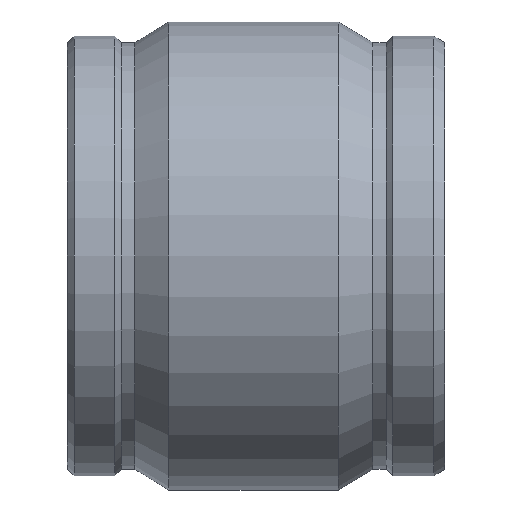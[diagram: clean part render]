
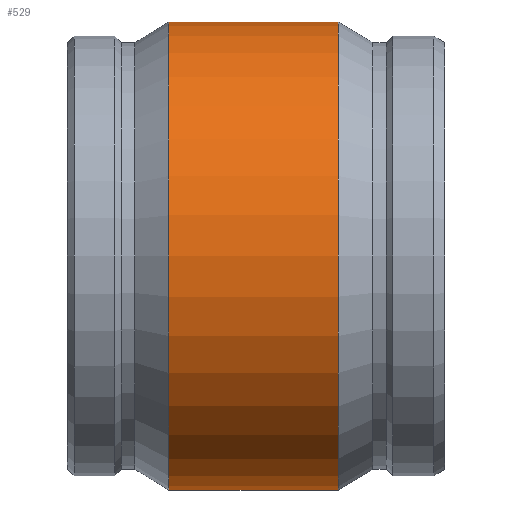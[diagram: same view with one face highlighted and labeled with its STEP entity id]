
A CAD part, front view. The second image highlights one B-rep face of the part: STEP entity #529.
In plain terms, the highlighted cylindrical face has radius 170.18 mm (diameter 340.36 mm), a full revolution.
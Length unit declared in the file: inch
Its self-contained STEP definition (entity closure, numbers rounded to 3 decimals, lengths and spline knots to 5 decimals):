
#50=LINE('',#992,#72);
#72=VECTOR('',#748,6.7);
#89=CYLINDRICAL_SURFACE('',#605,6.7);
#113=FACE_OUTER_BOUND('',#151,.T.);
#151=EDGE_LOOP('',(#421,#422,#423,#424,#425,#426));
#191=CIRCLE('',#603,6.7);
#192=CIRCLE('',#604,6.7);
#193=CIRCLE('',#606,6.7);
#194=CIRCLE('',#607,6.7);
#245=VERTEX_POINT('',#982);
#246=VERTEX_POINT('',#983);
#247=VERTEX_POINT('',#988);
#248=VERTEX_POINT('',#989);
#309=EDGE_CURVE('',#245,#246,#191,.T.);
#310=EDGE_CURVE('',#246,#245,#192,.T.);
#312=EDGE_CURVE('',#247,#248,#193,.T.);
#313=EDGE_CURVE('',#248,#247,#194,.T.);
#314=EDGE_CURVE('',#248,#246,#50,.T.);
#421=ORIENTED_EDGE('',*,*,#312,.F.);
#422=ORIENTED_EDGE('',*,*,#313,.F.);
#423=ORIENTED_EDGE('',*,*,#314,.T.);
#424=ORIENTED_EDGE('',*,*,#310,.T.);
#425=ORIENTED_EDGE('',*,*,#309,.T.);
#426=ORIENTED_EDGE('',*,*,#314,.F.);
#529=ADVANCED_FACE('',(#113),#89,.T.);
#603=AXIS2_PLACEMENT_3D('',#984,#737,#738);
#604=AXIS2_PLACEMENT_3D('',#985,#739,#740);
#605=AXIS2_PLACEMENT_3D('',#987,#742,#743);
#606=AXIS2_PLACEMENT_3D('',#990,#744,#745);
#607=AXIS2_PLACEMENT_3D('',#991,#746,#747);
#737=DIRECTION('center_axis',(1.,0.,0.));
#738=DIRECTION('ref_axis',(0.,0.,-1.));
#739=DIRECTION('center_axis',(1.,0.,0.));
#740=DIRECTION('ref_axis',(0.,0.,-1.));
#742=DIRECTION('center_axis',(1.,0.,0.));
#743=DIRECTION('ref_axis',(0.,1.,0.));
#744=DIRECTION('center_axis',(1.,0.,0.));
#745=DIRECTION('ref_axis',(0.,0.,-1.));
#746=DIRECTION('center_axis',(1.,0.,0.));
#747=DIRECTION('ref_axis',(0.,0.,-1.));
#748=DIRECTION('',(-1.,0.,0.));
#982=CARTESIAN_POINT('',(-2.5,6.7,0.));
#983=CARTESIAN_POINT('',(-2.5,-6.7,0.));
#984=CARTESIAN_POINT('Origin',(-2.5,0.,0.));
#985=CARTESIAN_POINT('Origin',(-2.5,0.,0.));
#987=CARTESIAN_POINT('Origin',(-0.07,0.,0.));
#988=CARTESIAN_POINT('',(2.36,6.7,0.));
#989=CARTESIAN_POINT('',(2.36,-6.7,0.));
#990=CARTESIAN_POINT('Origin',(2.36,0.,0.));
#991=CARTESIAN_POINT('Origin',(2.36,0.,0.));
#992=CARTESIAN_POINT('',(-0.07,-6.7,0.));
